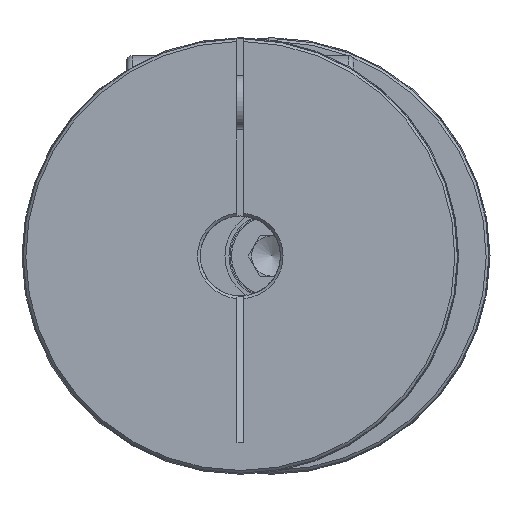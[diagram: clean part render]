
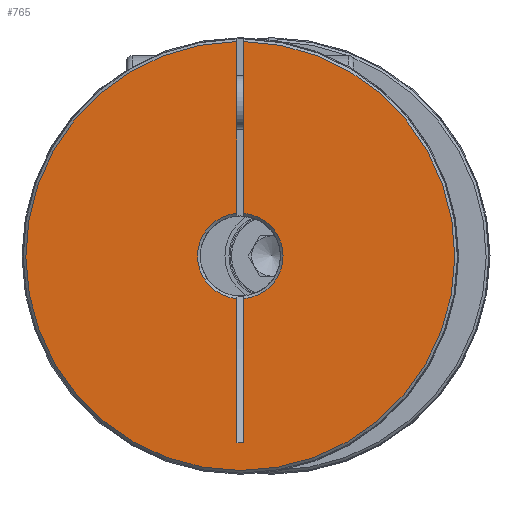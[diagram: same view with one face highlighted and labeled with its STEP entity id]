
A CAD part, left-side view. The second image highlights one B-rep face of the part: STEP entity #765.
In plain terms, the highlighted planar face has unit normal (-1, 0, 0).
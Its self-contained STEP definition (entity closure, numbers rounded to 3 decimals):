
#765 = ADVANCED_FACE( 'NONE', ( #1188 ), #1189, .F. );
#1188 = FACE_OUTER_BOUND( '', #1406, .T. );
#1189 = PLANE( '', #1407 );
#1406 = EDGE_LOOP( '', ( #1802, #1803, #1804, #1805, #1806, #1807, #1808, #1809 ) );
#1407 = AXIS2_PLACEMENT_3D( '', #1810, #1811, #1812 );
#1802 = ORIENTED_EDGE( '', *, *, #2144, .T. );
#1803 = ORIENTED_EDGE( '', *, *, #2145, .T. );
#1804 = ORIENTED_EDGE( '', *, *, #2146, .T. );
#1805 = ORIENTED_EDGE( '', *, *, #2147, .T. );
#1806 = ORIENTED_EDGE( '', *, *, #2148, .F. );
#1807 = ORIENTED_EDGE( '', *, *, #2149, .T. );
#1808 = ORIENTED_EDGE( '', *, *, #2118, .F. );
#1809 = ORIENTED_EDGE( '', *, *, #2150, .T. );
#1810 = CARTESIAN_POINT( '', ( 0., 16.25, 0. ) );
#1811 = DIRECTION( '', ( 1., 0., 0. ) );
#1812 = DIRECTION( '', ( 0., 1., 0. ) );
#2118 = EDGE_CURVE( 'NONE', #2398, #2399, #2400, .F. );
#2144 = EDGE_CURVE( 'NONE', #2447, #2448, #2449, .T. );
#2145 = EDGE_CURVE( 'NONE', #2448, #2450, #2451, .T. );
#2146 = EDGE_CURVE( 'NONE', #2450, #2452, #2453, .T. );
#2147 = EDGE_CURVE( 'NONE', #2452, #2454, #2455, .F. );
#2148 = EDGE_CURVE( 'NONE', #2456, #2454, #2457, .F. );
#2149 = EDGE_CURVE( 'NONE', #2456, #2399, #2458, .T. );
#2150 = EDGE_CURVE( 'NONE', #2398, #2447, #2459, .T. );
#2398 = VERTEX_POINT( 'NONE', #2570 );
#2399 = VERTEX_POINT( 'NONE', #2571 );
#2400 = LINE( '', #2572, #2573 );
#2447 = VERTEX_POINT( 'NONE', #2757 );
#2448 = VERTEX_POINT( 'NONE', #2758 );
#2449 = LINE( '', #2759, #2760 );
#2450 = VERTEX_POINT( 'NONE', #2761 );
#2451 = CIRCLE( '', #2762, 3.2 );
#2452 = VERTEX_POINT( 'NONE', #2763 );
#2453 = LINE( '', #2764, #2765 );
#2454 = VERTEX_POINT( 'NONE', #2766 );
#2455 = CIRCLE( '', #2767, 16.05 );
#2456 = VERTEX_POINT( 'NONE', #2768 );
#2457 = LINE( '', #2769, #2770 );
#2458 = CIRCLE( '', #2771, 3.2 );
#2459 = LINE( '', #2772, #2773 );
#2570 = CARTESIAN_POINT( '', ( 0., -0.25, -13.976 ) );
#2571 = CARTESIAN_POINT( '', ( 0., -0.25, -3.19 ) );
#2572 = CARTESIAN_POINT( '', ( 0., -0.25, 7. ) );
#2573 = VECTOR( '', #2886, 1000. );
#2757 = CARTESIAN_POINT( '', ( 0., 0.25, -13.976 ) );
#2758 = CARTESIAN_POINT( '', ( 0., 0.25, -3.19 ) );
#2759 = CARTESIAN_POINT( '', ( 0., 0.25, 0. ) );
#2760 = VECTOR( '', #2937, 1000. );
#2761 = CARTESIAN_POINT( '', ( 0., 0.25, 3.19 ) );
#2762 = AXIS2_PLACEMENT_3D( '', #2938, #2939, #2940 );
#2763 = CARTESIAN_POINT( '', ( 0., 0.25, 16.048 ) );
#2764 = CARTESIAN_POINT( '', ( 0., 0.25, 0. ) );
#2765 = VECTOR( '', #2941, 1000. );
#2766 = CARTESIAN_POINT( '', ( 0., -0.25, 16.048 ) );
#2767 = AXIS2_PLACEMENT_3D( '', #2942, #2943, #2944 );
#2768 = CARTESIAN_POINT( '', ( 0., -0.25, 3.19 ) );
#2769 = CARTESIAN_POINT( '', ( 0., -0.25, 7. ) );
#2770 = VECTOR( '', #2945, 1000. );
#2771 = AXIS2_PLACEMENT_3D( '', #2946, #2947, #2948 );
#2772 = CARTESIAN_POINT( '', ( 0., -0.25, -13.976 ) );
#2773 = VECTOR( '', #2949, 1000. );
#2886 = DIRECTION( '', ( 0., 0., -1. ) );
#2937 = DIRECTION( '', ( 0., 0., 1. ) );
#2938 = CARTESIAN_POINT( '', ( 0., 0., 0. ) );
#2939 = DIRECTION( '', ( 1., 0., 0. ) );
#2940 = DIRECTION( '', ( 0., 0., -1. ) );
#2941 = DIRECTION( '', ( 0., 0., 1. ) );
#2942 = CARTESIAN_POINT( '', ( 0., 0., 0. ) );
#2943 = DIRECTION( '', ( 1., 0., 0. ) );
#2944 = DIRECTION( '', ( 0., 0., -1. ) );
#2945 = DIRECTION( '', ( 0., 0., -1. ) );
#2946 = CARTESIAN_POINT( '', ( 0., 0., 0. ) );
#2947 = DIRECTION( '', ( 1., 0., 0. ) );
#2948 = DIRECTION( '', ( 0., 0., -1. ) );
#2949 = DIRECTION( '', ( 0., 1., 0. ) );
